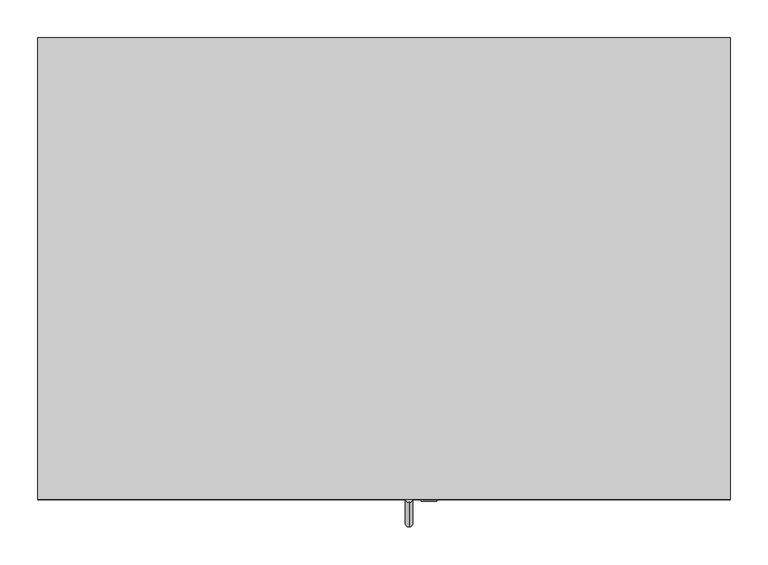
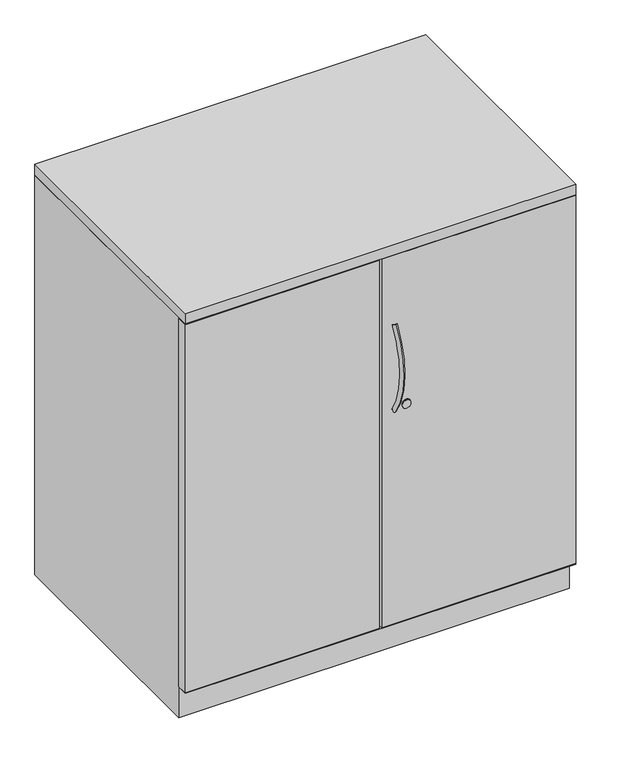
"""IFC4 building model written with IfcOpenShell, lengths in millimetres: furniture geometry, Steelcase - Universal Storage - Cabinet - Storage - 40H-52H - Proud Steel : 40H x 23 1/8D x 36W."""

from ifc_helpers import new_model, si_unit, point, frame, frame_2d, origin, place, context, project, spatial, polyline, circle_curve, ellipse_curve, trimmed, segment, composite_curve, outline, extrude, faceted_brep, source, transform, mapped, element, save
from ifc_brep_helpers import plane_surface, revolved_surface, advanced_brep


def furniture_da9e5833(model_context):
    return source(origin(), model_context, "Body", "SolidModel", [
        extrude(outline(polyline([(914.4, 0.0), (914.4, -609.6), (0.0, -609.6), (0.0, 0.0), (914.4, 0.0)])), frame((0.0, 0.0, 990.6), z_axis=(0.0, 0.0, 1.0), x_axis=(1.0, 0.0, 0.0)), (0.0, 0.0, 1.0), 25.4),
        extrude(outline(polyline([(0.0, -609.6), (0.0, -584.2008418), (454.66, -584.2008418), (454.66, -609.6), (0.0, -609.6)])), frame((0.0, 0.0, 77.724), z_axis=(0.0, 0.0, 1.0), x_axis=(1.0, 0.0, 0.0)), (0.0, 0.0, 1.0), 911.352),
        extrude(outline(polyline([(914.4, -584.2008418), (914.4, -609.6), (459.74, -609.6), (459.74, -584.2008418), (914.4, -584.2008418)])), frame((0.0, 0.0, 77.724), z_axis=(0.0, 0.0, 1.0), x_axis=(1.0, 0.0, 0.0)), (0.0, 0.0, 1.0), 911.352),
        extrude(outline(composite_curve([segment(trimmed(circle_curve(frame_2d((612.902, 516.7418131)), 10.16), [point((612.902, 526.9018131))], [point((612.902, 506.5818131))], False, "CARTESIAN"), True, "CONTINUOUS"), segment(trimmed(circle_curve(frame_2d((612.902, 516.7418131)), 10.16), [point((612.902, 506.5818131))], [point((612.902, 526.9018131))], False, "CARTESIAN"), True, "CONTINUOUS")], self_intersect=False)), frame((0.0, -612.013031, 0.0), z_axis=(0.0, 1.0, 0.0), x_axis=(0.0, 0.0, 1.0)), (0.0, 0.0, 1.0), 2.413031),
        advanced_brep(
        [(490.2783765, -605.0224318, 814.9196018), (490.2783765, -613.6221633, 820.5900503), (490.2783765, -602.5951581, 607.1931915), (490.2783765, -611.0600418, 601.3233437)],
        [
            (0, 1, circle_curve(frame((490.2783765, -609.3222976, 817.7548261), z_axis=(0.0, 0.5504787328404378, 0.83484918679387), x_axis=(0.0, -0.83484918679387, 0.5504787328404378)), 5.1504701)),
            (1, 0, circle_curve(frame((490.2783765, -609.3222976, 817.7548261), z_axis=(0.0, 0.5504787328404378, 0.83484918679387), x_axis=(0.0, -0.83484918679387, 0.5504787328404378)), 5.1504701)),
            (2, 3, circle_curve(frame((490.2783765, -606.8276, 604.2582676), z_axis=(0.0, 0.5698361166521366, -0.8217583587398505), x_axis=(0.0, -0.8217583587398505, -0.5698361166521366)), 5.1504701)),
            (3, 2, circle_curve(frame((490.2783765, -606.8276, 604.2582676), z_axis=(0.0, 0.5698361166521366, -0.8217583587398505), x_axis=(0.0, -0.8217583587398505, -0.5698361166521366)), 5.1504701)),
            (3, 1, circle_curve(frame((490.2783765, -450.226461, 712.8509992), z_axis=(-1.0, 0.0, 0.0), x_axis=(0.0, -0.83484918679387, 0.5504787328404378)), 195.7188256)),
            (0, 2, circle_curve(frame((490.2783765, -450.226461, 712.8509992), z_axis=(1.0, 0.0, 0.0), x_axis=(0.0, -0.83484918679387, 0.5504787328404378)), 185.4178854)),
        ],
        [
            plane_surface(frame((490.2783765, -609.3222976, 817.7548261), z_axis=(0.0, 0.5504787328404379, 0.83484918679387), x_axis=(-1.0, 0.0, 0.0))),
            plane_surface(frame((490.2783765, -606.8276, 604.2582676), z_axis=(0.0, 0.5698361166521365, -0.8217583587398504), x_axis=(-1.0, 0.0, 0.0))),
            revolved_surface(trimmed(ellipse_curve(frame((490.2783765, -609.3222976, 817.7548261), z_axis=(0.0, 0.5504787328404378, 0.83484918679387), x_axis=(0.0, -0.83484918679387, 0.5504787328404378)), 5.1504701, 5.1504701), [point((490.2783765, -605.0224318, 814.9196018))], [point((490.2783765, -613.6221633, 820.5900503))], True, "CARTESIAN"), (490.2783765, -450.226461, 712.8509992), (1.0, 0.0, 0.0)),
            revolved_surface(trimmed(ellipse_curve(frame((490.2783765, -609.3222976, 817.7548261), z_axis=(0.0, 0.5504787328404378, 0.83484918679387), x_axis=(0.0, -0.83484918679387, 0.5504787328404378)), 5.1504701, 5.1504701), [point((490.2783765, -613.6221633, 820.5900503))], [point((490.2783765, -605.0224318, 814.9196018))], True, "CARTESIAN"), (490.2783765, -450.226461, 712.8509992), (1.0, 0.0, 0.0)),
        ],
        [
            (0, [[1, 2]]),
            (1, [[3, 4]]),
            (2, [[5, -1, 6, -4]]),
            (3, [[-6, -2, -5, -3]]),
        ],
    ),
        extrude(outline(composite_curve([segment(trimmed(circle_curve(frame_2d((614.5669832, 517.0109835)), 9.7167829), [point((614.5669832, 526.7277664))], [point((614.5669832, 507.2942006))], False, "CARTESIAN"), True, "CONTINUOUS"), segment(trimmed(circle_curve(frame_2d((614.5669832, 517.0109835)), 9.7167829), [point((614.5669832, 507.2942006))], [point((614.5669832, 526.7277664))], False, "CARTESIAN"), True, "CONTINUOUS")], self_intersect=False)), frame((0.0, -610.2695275, 0.0), z_axis=(0.0, 1.0, 0.0), x_axis=(0.0, 0.0, 1.0)), (0.0, 0.0, 1.0), 0.6695275),
        faceted_brep([(914.4, 0.0, 0.0), (914.4, -582.6768432, 0.0), (0.0, -582.6768432, 0.0), (0.0, 0.0, 0.0), (0.0, 0.0, 989.076), (914.4, 0.0, 989.076), (0.0, -582.6768432, 76.2), (0.0, -609.6, 76.2), (0.0, -609.6, 77.724), (0.0, -582.6768432, 77.724), (0.0, -582.6768432, 989.076), (914.4, -582.6768432, 76.2), (914.4, -582.6768432, 989.076), (914.4, -582.6768432, 77.724), (914.4, -609.4738418, 77.724), (914.4, -609.6, 76.2), (889.0000242, -25.4000008, 989.076), (889.0000242, -582.6768432, 989.076), (25.3999758, -582.6768432, 989.076), (25.3999758, -25.4000008, 989.076), (889.0000242, -25.4000008, 77.724), (889.0000242, -582.6768432, 77.724), (25.3999758, -582.6768432, 77.724), (25.3999758, -25.4000008, 77.724), (4.6981334, -584.2008418, 77.724), (889.0000242, -584.2008418, 77.724)], [[[0, 1, 2, 3]], [[0, 3, 4, 5]], [[4, 3, 2, 6, 7, 8, 9, 10]], [[2, 1, 11, 6]], [[1, 0, 5, 12, 13, 14, 15, 11]], [[16, 17, 12, 5, 4, 10, 18, 19]], [[17, 16, 20, 21]], [[12, 17, 21, 13]], [[18, 10, 9, 22]], [[19, 18, 22, 23]], [[16, 19, 23, 20]], [[8, 24, 25, 14, 13, 21, 20, 23, 22, 9]], [[15, 7, 6, 11]], [[24, 8, 7]], [[25, 24, 7, 15]], [[14, 25, 15]]]),
    ])


if __name__ == "__main__":
    model = new_model("IFC4")
    model_context = context("Model", 3, world=origin())
    ifc_project = project(units=[si_unit("LENGTHUNIT", "METRE", prefix="MILLI")], contexts=[model_context])
    site = spatial("IfcSite", under=ifc_project)
    building = spatial("IfcBuilding", under=site)
    placement = place(None, origin())
    furniture_shape = furniture_da9e5833(model_context)
    element("IfcFurniture", 1, ObjectType="Steelcase - Universal Storage - Cabinet - Storage - 40H-52H - Proud Steel : 40H x 23 1/8D x 36W", at=placement, inside=building, context=model_context, shape_type="MappedRepresentation", body=[
        mapped(furniture_shape, transform((0.0, 0.0, 0.0), x_axis=(1.0, 0.0, 0.0), y_axis=(0.0, 1.0, 0.0), z_axis=(0.0, 0.0, 1.0))),
    ])
    save(model, "model.ifc")
